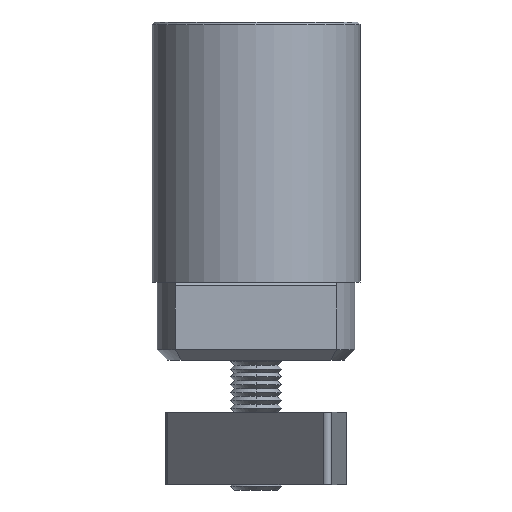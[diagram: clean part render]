
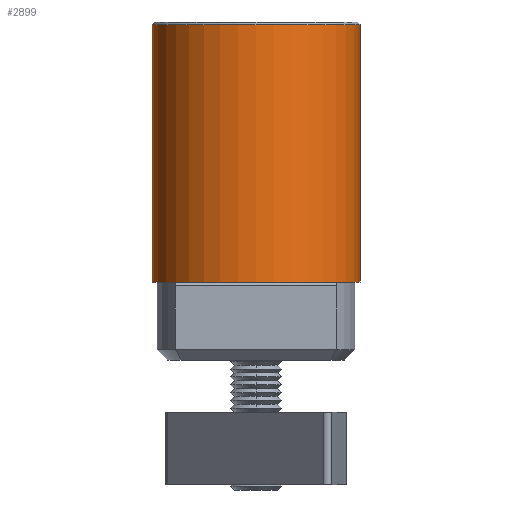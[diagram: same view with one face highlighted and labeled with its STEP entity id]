
A CAD part, front view. The second image highlights one B-rep face of the part: STEP entity #2899.
In plain terms, the highlighted cylindrical face has radius 20 mm (diameter 40 mm), a partial arc.
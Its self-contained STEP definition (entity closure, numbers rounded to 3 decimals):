
#1 = EDGE_CURVE ( 'NONE', #3464, #2758, #3784, .T. ) ;
#3 = EDGE_CURVE ( 'NONE', #2758, #2743, #3776, .T. ) ;
#111 = CARTESIAN_POINT ( 'NONE',  ( -20., 0., 0. ) ) ;
#119 = DIRECTION ( 'NONE',  ( 0., 0., -1. ) ) ;
#120 = VECTOR ( 'NONE', #119, 1000. ) ;
#121 = CARTESIAN_POINT ( 'NONE',  ( 20., 0., 50. ) ) ;
#122 = LINE ( 'NONE', #121, #120 ) ;
#131 = CARTESIAN_POINT ( 'NONE',  ( 20., 0., 0. ) ) ;
#378 = DIRECTION ( 'NONE',  ( -1., 0., 0. ) ) ;
#379 = DIRECTION ( 'NONE',  ( 0., 0., -1. ) ) ;
#380 = AXIS2_PLACEMENT_3D ( 'NONE', #381, #379, #378 ) ;
#381 = CARTESIAN_POINT ( 'NONE',  ( 0., 0., 50. ) ) ;
#382 = CYLINDRICAL_SURFACE ( 'NONE', #380, 20. ) ;
#383 = FACE_OUTER_BOUND ( 'NONE', #2888, .T. ) ;
#1374 = CARTESIAN_POINT ( 'NONE',  ( -20., 0., 49.5 ) ) ;
#1397 = CARTESIAN_POINT ( 'NONE',  ( 20., 0., 49.5 ) ) ;
#1815 = CARTESIAN_POINT ( 'NONE',  ( 0., 0., 49.5 ) ) ;
#1816 = AXIS2_PLACEMENT_3D ( 'NONE', #1815, #1879, #1878 ) ;
#1817 = CIRCLE ( 'NONE', #1816, 20. ) ;
#1878 = DIRECTION ( 'NONE',  ( 1., 0., 0. ) ) ;
#1879 = DIRECTION ( 'NONE',  ( 0., 0., -1. ) ) ;
#2743 = VERTEX_POINT ( 'NONE', #131 ) ;
#2751 = EDGE_CURVE ( 'NONE', #3490, #2743, #122, .T. ) ;
#2758 = VERTEX_POINT ( 'NONE', #111 ) ;
#2888 = EDGE_LOOP ( 'NONE', ( #2889, #3325, #4037, #4039 ) ) ;
#2889 = ORIENTED_EDGE ( 'NONE', *, *, #2751, .F. ) ;
#2899 = ADVANCED_FACE ( 'NONE', ( #383 ), #382, .T. ) ;
#3325 = ORIENTED_EDGE ( 'NONE', *, *, #4042, .T. ) ;
#3464 = VERTEX_POINT ( 'NONE', #1374 ) ;
#3490 = VERTEX_POINT ( 'NONE', #1397 ) ;
#3769 = DIRECTION ( 'NONE',  ( 1., 0., 0. ) ) ;
#3770 = DIRECTION ( 'NONE',  ( 0., 0., 1. ) ) ;
#3771 = CARTESIAN_POINT ( 'NONE',  ( 0., 0., 0. ) ) ;
#3772 = AXIS2_PLACEMENT_3D ( 'NONE', #3771, #3770, #3769 ) ;
#3776 = CIRCLE ( 'NONE', #3772, 20. ) ;
#3781 = DIRECTION ( 'NONE',  ( 0., 0., -1. ) ) ;
#3782 = VECTOR ( 'NONE', #3781, 1000. ) ;
#3783 = CARTESIAN_POINT ( 'NONE',  ( -20., 0., 50. ) ) ;
#3784 = LINE ( 'NONE', #3783, #3782 ) ;
#4037 = ORIENTED_EDGE ( 'NONE', *, *, #1, .T. ) ;
#4039 = ORIENTED_EDGE ( 'NONE', *, *, #3, .T. ) ;
#4042 = EDGE_CURVE ( 'NONE', #3490, #3464, #1817, .T. ) ;
